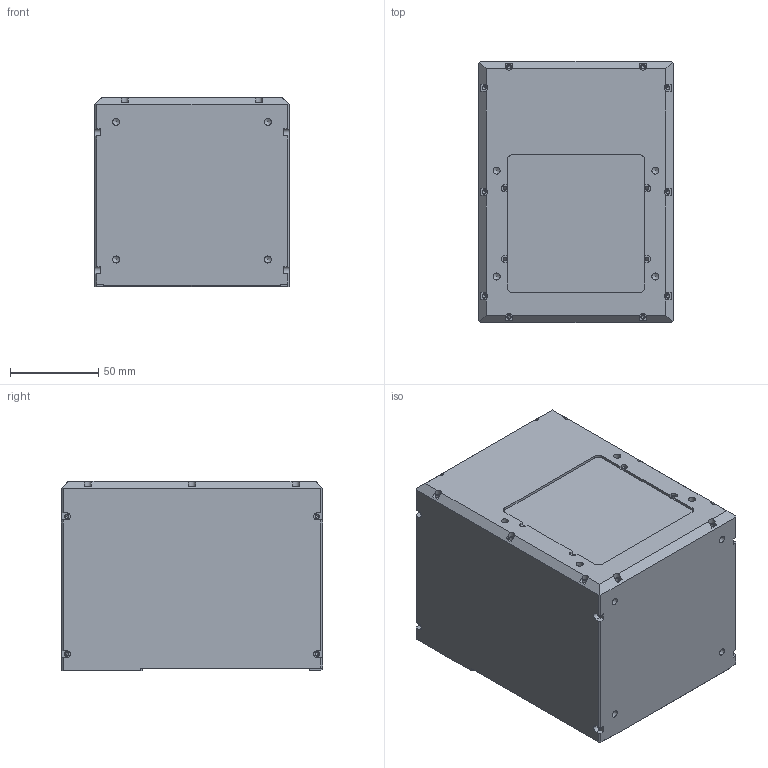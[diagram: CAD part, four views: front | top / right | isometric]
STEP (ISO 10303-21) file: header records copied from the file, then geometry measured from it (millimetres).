
FILE_DESCRIPTION((''),'2;1');
FILE_NAME('D:\上海创波-20181114\2-三维图纸\1-常用光源\WLFV系列\WLFV-100-0000-USER.stp','2020-01-09T15:09:02',('Administrator'),(''),'Autodesk Inventor 2010','Autodesk Inventor 2010','');
FILE_SCHEMA(('AUTOMOTIVE_DESIGN { 1 0 10303 214 1 1 1 1 }'));
Length unit declared in the file: millimetre
Products named in the file (1): 零件4
Bounding box: 110 x 148 x 107.5 mm (x, y, z)
Volume: 386507.1 mm3; surface area: 202586.5 mm2
Topology: 1 solids, 1 shells, 463 faces, 1236 edges, 807 vertices
Faces by surface type: plane 247, bspline 180, cylinder 27, cone 9
Full cylindrical faces by diameter (mm): 2 x6, 2.5 x8
Entity records: 14498 total; most frequent: CARTESIAN_POINT 4622, ORIENTED_EDGE 1974, DIRECTION 1809, EDGE_CURVE 987, VECTOR 733, LINE 733, VERTEX_POINT 699, EDGE_LOOP 652
